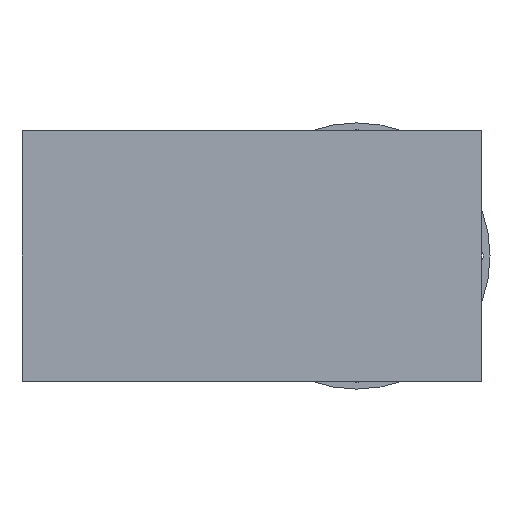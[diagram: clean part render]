
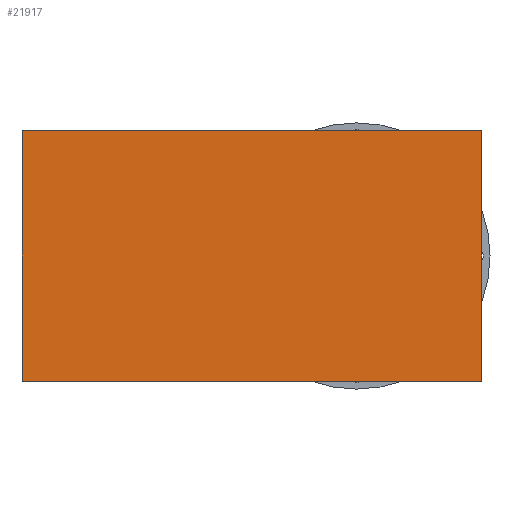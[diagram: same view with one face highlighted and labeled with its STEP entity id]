
A CAD part, left-side view. The second image highlights one B-rep face of the part: STEP entity #21917.
In plain terms, the highlighted planar face has unit normal (-1, 0, 0).
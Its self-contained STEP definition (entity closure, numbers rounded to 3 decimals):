
#348 = DIRECTION ( 'NONE',  ( 0., 1., 0. ) ) ;
#887 = VERTEX_POINT ( 'NONE', #20308 ) ;
#980 = CARTESIAN_POINT ( 'NONE',  ( -315., 0., 0. ) ) ;
#1235 = EDGE_CURVE ( 'NONE', #887, #9857, #12200, .T. ) ;
#1607 = FACE_OUTER_BOUND ( 'NONE', #15808, .T. ) ;
#1760 = CARTESIAN_POINT ( 'NONE',  ( -315., 415., -155. ) ) ;
#2053 = LINE ( 'NONE', #13893, #13881 ) ;
#2761 = DIRECTION ( 'NONE',  ( -1., 0., 0. ) ) ;
#2939 = CARTESIAN_POINT ( 'NONE',  ( -315., -155., -155. ) ) ;
#3250 = DIRECTION ( 'NONE',  ( 0., 0., -1. ) ) ;
#5686 = VERTEX_POINT ( 'NONE', #14154 ) ;
#5996 = VECTOR ( 'NONE', #17216, 1000. ) ;
#8260 = ORIENTED_EDGE ( 'NONE', *, *, #8474, .T. ) ;
#8474 = EDGE_CURVE ( 'NONE', #5686, #19543, #2053, .T. ) ;
#9825 = DIRECTION ( 'NONE',  ( 0., 0., 1. ) ) ;
#9857 = VERTEX_POINT ( 'NONE', #19660 ) ;
#11265 = EDGE_CURVE ( 'NONE', #9857, #5686, #21424, .T. ) ;
#12200 = LINE ( 'NONE', #2939, #5996 ) ;
#13564 = AXIS2_PLACEMENT_3D ( 'NONE', #980, #2761, #9825 ) ;
#13881 = VECTOR ( 'NONE', #3250, 1000. ) ;
#13893 = CARTESIAN_POINT ( 'NONE',  ( -315., 415., -155. ) ) ;
#14154 = CARTESIAN_POINT ( 'NONE',  ( -315., 415., 155. ) ) ;
#15261 = ORIENTED_EDGE ( 'NONE', *, *, #21668, .T. ) ;
#15808 = EDGE_LOOP ( 'NONE', ( #15261, #21180, #17366, #8260 ) ) ;
#16577 = VECTOR ( 'NONE', #348, 1000. ) ;
#16958 = PLANE ( 'NONE',  #13564 ) ;
#17216 = DIRECTION ( 'NONE',  ( 0., 0., 1. ) ) ;
#17366 = ORIENTED_EDGE ( 'NONE', *, *, #11265, .T. ) ;
#17762 = DIRECTION ( 'NONE',  ( 0., -1., 0. ) ) ;
#18068 = CARTESIAN_POINT ( 'NONE',  ( -315., 415., 155. ) ) ;
#19543 = VERTEX_POINT ( 'NONE', #20254 ) ;
#19660 = CARTESIAN_POINT ( 'NONE',  ( -315., -155., 155. ) ) ;
#20254 = CARTESIAN_POINT ( 'NONE',  ( -315., 415., -155. ) ) ;
#20308 = CARTESIAN_POINT ( 'NONE',  ( -315., -155., -155. ) ) ;
#20862 = VECTOR ( 'NONE', #17762, 1000. ) ;
#21180 = ORIENTED_EDGE ( 'NONE', *, *, #1235, .T. ) ;
#21424 = LINE ( 'NONE', #18068, #16577 ) ;
#21668 = EDGE_CURVE ( 'NONE', #19543, #887, #22254, .T. ) ;
#21917 = ADVANCED_FACE ( 'NONE', ( #1607 ), #16958, .T. ) ;
#22254 = LINE ( 'NONE', #1760, #20862 ) ;
